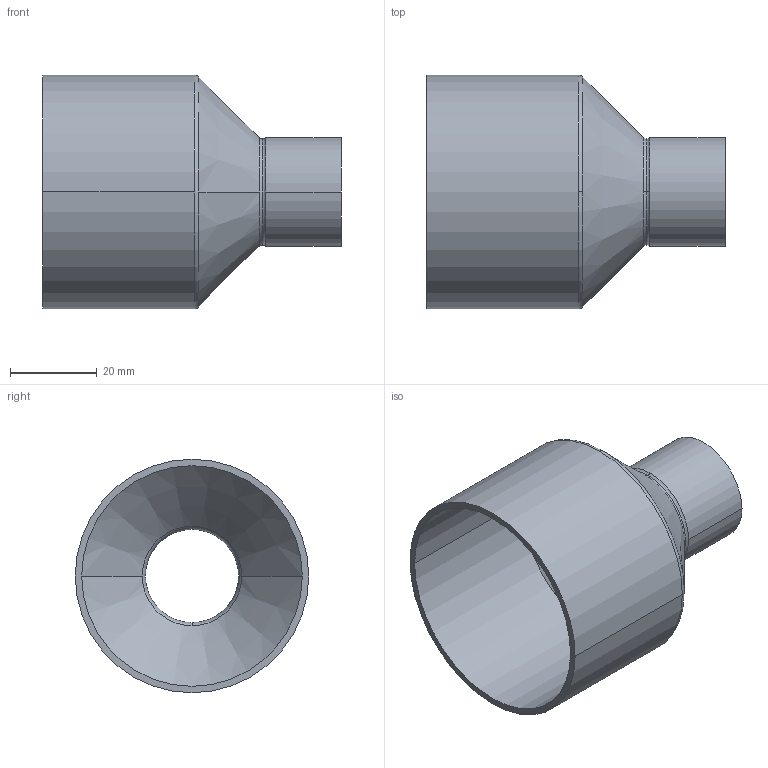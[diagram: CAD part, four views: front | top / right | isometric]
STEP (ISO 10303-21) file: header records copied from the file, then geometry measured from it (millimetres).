
FILE_DESCRIPTION((''),'2;1');
FILE_NAME('G:\Technics\CAD\Bauteile\Serie 15243\152435422.stp','2005-10-21T12:49:45',('boden'),(''),'Autodesk Inventor 8','Autodesk Inventor 8','');
FILE_SCHEMA(('AUTOMOTIVE_DESIGN { 1 0 10303 214 1 1 1 1 }'));
Length unit declared in the file: millimetre
Products named in the file (1): 152435422
Bounding box: 69 x 54 x 54 mm (x, y, z)
Volume: 14547.9 mm3; surface area: 19756.6 mm2
Topology: 1 solids, 1 shells, 24 faces, 60 edges, 38 vertices
Faces by surface type: cylinder 8, torus 6, bspline 4, cone 4, plane 2
Entity records: 931 total; most frequent: CARTESIAN_POINT 299, DIRECTION 150, ORIENTED_EDGE 120, AXIS2_PLACEMENT_3D 69, EDGE_CURVE 60, CIRCLE 48, VERTEX_POINT 38, EDGE_LOOP 26
